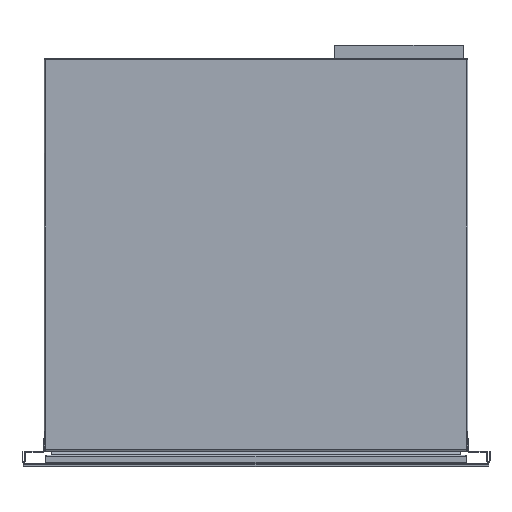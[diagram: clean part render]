
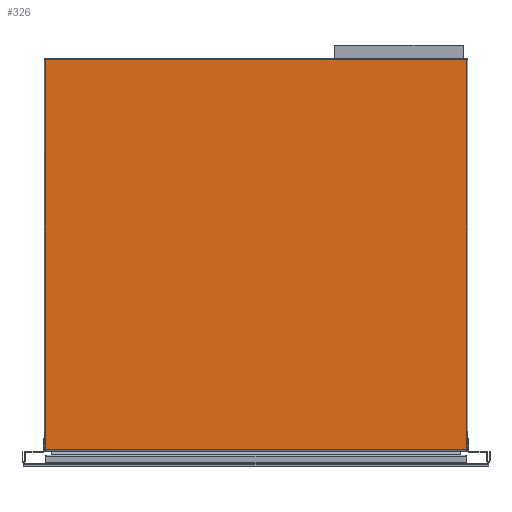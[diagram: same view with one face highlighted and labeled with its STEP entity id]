
A CAD part, top view. The second image highlights one B-rep face of the part: STEP entity #326.
In plain terms, the highlighted planar face has unit normal (0, 0, 1).
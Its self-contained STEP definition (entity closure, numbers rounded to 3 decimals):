
#326=ADVANCED_FACE('',(#579),#3886,.T.);
#579=FACE_OUTER_BOUND('',#844,.T.);
#844=EDGE_LOOP('',(#1732,#1733,#1734,#1735,#1736,#1737));
#1732=ORIENTED_EDGE('',*,*,#2572,.F.);
#1733=ORIENTED_EDGE('',*,*,#2573,.F.);
#1734=ORIENTED_EDGE('',*,*,#2574,.F.);
#1735=ORIENTED_EDGE('',*,*,#2575,.F.);
#1736=ORIENTED_EDGE('',*,*,#2576,.F.);
#1737=ORIENTED_EDGE('',*,*,#2571,.F.);
#2571=EDGE_CURVE('',#3662,#3663,#3230,.T.);
#2572=EDGE_CURVE('',#3664,#3662,#3231,.T.);
#2573=EDGE_CURVE('',#3665,#3664,#3232,.T.);
#2574=EDGE_CURVE('',#3666,#3665,#3233,.T.);
#2575=EDGE_CURVE('',#3667,#3666,#3234,.T.);
#2576=EDGE_CURVE('',#3663,#3667,#3235,.T.);
#3230=B_SPLINE_CURVE_WITH_KNOTS('',1,(#7385,#7386),.UNSPECIFIED.,.F.,.F.,
(2,2),(-473.4,0.),.UNSPECIFIED.);
#3231=B_SPLINE_CURVE_WITH_KNOTS('',1,(#7387,#7388),.UNSPECIFIED.,.F.,.F.,
(2,2),(-536.3,0.),.UNSPECIFIED.);
#3232=B_SPLINE_CURVE_WITH_KNOTS('',1,(#7389,#7390),.UNSPECIFIED.,.F.,.F.,
(2,2),(-473.4,0.),.UNSPECIFIED.);
#3233=B_SPLINE_CURVE_WITH_KNOTS('',1,(#7391,#7392),.UNSPECIFIED.,.F.,.F.,
(2,2),(-23.4,0.),.UNSPECIFIED.);
#3234=B_SPLINE_CURVE_WITH_KNOTS('',1,(#7393,#7394),.UNSPECIFIED.,.F.,.F.,
(2,2),(-536.3,0.),.UNSPECIFIED.);
#3235=B_SPLINE_CURVE_WITH_KNOTS('',1,(#7395,#7396),.UNSPECIFIED.,.F.,.F.,
(2,2),(-23.4,0.),.UNSPECIFIED.);
#3662=VERTEX_POINT('',#7323);
#3663=VERTEX_POINT('',#7324);
#3664=VERTEX_POINT('',#7325);
#3665=VERTEX_POINT('',#7326);
#3666=VERTEX_POINT('',#7327);
#3667=VERTEX_POINT('',#7328);
#3886=PLANE('',#4184);
#4184=AXIS2_PLACEMENT_3D('',#7107,#4410,$);
#4410=DIRECTION('',(0.,0.,1.));
#7107=CARTESIAN_POINT('',(-53.34,-367.64,68.5));
#7323=CARTESIAN_POINT('',(536.65,178.9,68.5));
#7324=CARTESIAN_POINT('',(536.65,-294.5,68.5));
#7325=CARTESIAN_POINT('',(0.35,178.9,68.5));
#7326=CARTESIAN_POINT('',(0.35,-294.5,68.5));
#7327=CARTESIAN_POINT('',(0.35,-317.9,68.5));
#7328=CARTESIAN_POINT('',(536.65,-317.9,68.5));
#7385=CARTESIAN_POINT('',(536.65,178.9,68.5));
#7386=CARTESIAN_POINT('',(536.65,-294.5,68.5));
#7387=CARTESIAN_POINT('',(0.35,178.9,68.5));
#7388=CARTESIAN_POINT('',(536.65,178.9,68.5));
#7389=CARTESIAN_POINT('',(0.35,-294.5,68.5));
#7390=CARTESIAN_POINT('',(0.35,178.9,68.5));
#7391=CARTESIAN_POINT('',(0.35,-317.9,68.5));
#7392=CARTESIAN_POINT('',(0.35,-294.5,68.5));
#7393=CARTESIAN_POINT('',(536.65,-317.9,68.5));
#7394=CARTESIAN_POINT('',(0.35,-317.9,68.5));
#7395=CARTESIAN_POINT('',(536.65,-294.5,68.5));
#7396=CARTESIAN_POINT('',(536.65,-317.9,68.5));
